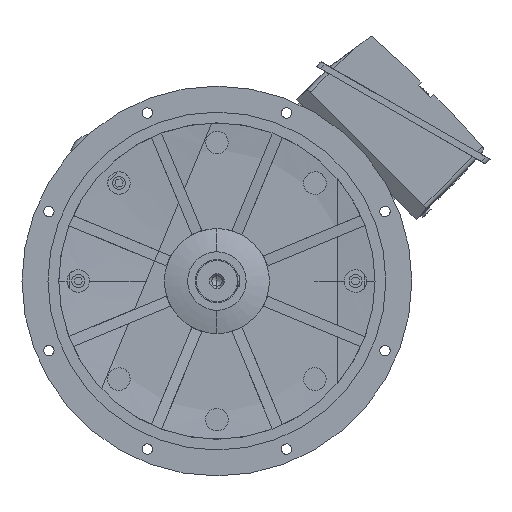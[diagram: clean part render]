
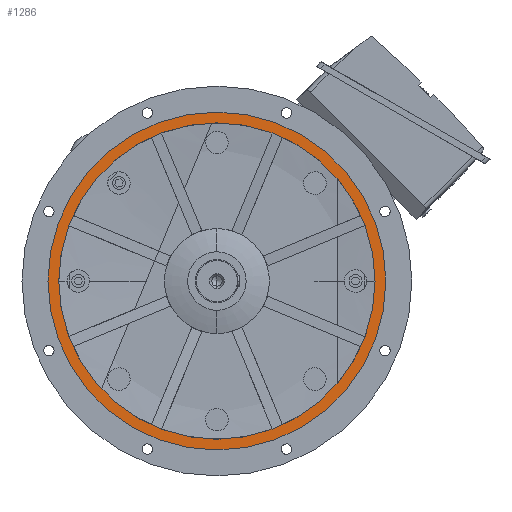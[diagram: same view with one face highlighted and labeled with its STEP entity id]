
A CAD part, left-side view. The second image highlights one B-rep face of the part: STEP entity #1286.
In plain terms, the highlighted planar face has unit normal (-1, 0, 0).
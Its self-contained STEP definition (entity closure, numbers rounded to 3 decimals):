
#1286 = ADVANCED_FACE ( 'NONE', ( #3077, #89223 ), #36271, .T. ) ;
#1379 = CARTESIAN_POINT ( 'NONE',  ( -116., 390., 0. ) ) ;
#1882 = EDGE_LOOP ( 'NONE', ( #5718, #31693 ) ) ;
#2925 = VERTEX_POINT ( 'NONE', #73040 ) ;
#3077 = FACE_OUTER_BOUND ( 'NONE', #1882, .T. ) ;
#5718 = ORIENTED_EDGE ( 'NONE', *, *, #71977, .F. ) ;
#6354 = AXIS2_PLACEMENT_3D ( 'NONE', #34096, #48894, #90142 ) ;
#13034 = DIRECTION ( 'NONE',  ( 0., 1., 0. ) ) ;
#14968 = AXIS2_PLACEMENT_3D ( 'NONE', #85529, #43084, #50151 ) ;
#20174 = CARTESIAN_POINT ( 'NONE',  ( -116., 0., 0. ) ) ;
#27456 = CIRCLE ( 'NONE', #84437, 390. ) ;
#29576 = CARTESIAN_POINT ( 'NONE',  ( -116., 0., 0. ) ) ;
#30746 = CIRCLE ( 'NONE', #54644, 390. ) ;
#31693 = ORIENTED_EDGE ( 'NONE', *, *, #77965, .F. ) ;
#32844 = DIRECTION ( 'NONE',  ( 1., 0., 0. ) ) ;
#34096 = CARTESIAN_POINT ( 'NONE',  ( -116., 0., 0. ) ) ;
#36271 = PLANE ( 'NONE',  #14968 ) ;
#36666 = ORIENTED_EDGE ( 'NONE', *, *, #66205, .T. ) ;
#37481 = DIRECTION ( 'NONE',  ( 1., 0., 0. ) ) ;
#37771 = DIRECTION ( 'NONE',  ( 0., 1., 0. ) ) ;
#43084 = DIRECTION ( 'NONE',  ( -1., 0., 0. ) ) ;
#48894 = DIRECTION ( 'NONE',  ( 1., 0., 0. ) ) ;
#50151 = DIRECTION ( 'NONE',  ( 0., 0., 1. ) ) ;
#52033 = DIRECTION ( 'NONE',  ( 0., 1., 0. ) ) ;
#54167 = CIRCLE ( 'NONE', #6354, 365. ) ;
#54644 = AXIS2_PLACEMENT_3D ( 'NONE', #29576, #87129, #52033 ) ;
#55048 = EDGE_LOOP ( 'NONE', ( #89196, #36666 ) ) ;
#57899 = CIRCLE ( 'NONE', #78210, 365. ) ;
#62996 = VERTEX_POINT ( 'NONE', #82554 ) ;
#63993 = CARTESIAN_POINT ( 'NONE',  ( -116., 365., 0. ) ) ;
#66205 = EDGE_CURVE ( 'NONE', #62996, #78478, #57899, .T. ) ;
#69961 = EDGE_CURVE ( 'NONE', #78478, #62996, #54167, .T. ) ;
#70635 = VERTEX_POINT ( 'NONE', #1379 ) ;
#71977 = EDGE_CURVE ( 'NONE', #70635, #2925, #27456, .T. ) ;
#73040 = CARTESIAN_POINT ( 'NONE',  ( -116., -390., 0. ) ) ;
#77965 = EDGE_CURVE ( 'NONE', #2925, #70635, #30746, .T. ) ;
#78210 = AXIS2_PLACEMENT_3D ( 'NONE', #79601, #37481, #37771 ) ;
#78478 = VERTEX_POINT ( 'NONE', #63993 ) ;
#79601 = CARTESIAN_POINT ( 'NONE',  ( -116., 0., 0. ) ) ;
#82554 = CARTESIAN_POINT ( 'NONE',  ( -116., -365., 0. ) ) ;
#84437 = AXIS2_PLACEMENT_3D ( 'NONE', #20174, #32844, #13034 ) ;
#85529 = CARTESIAN_POINT ( 'NONE',  ( -116., 377.5, 0. ) ) ;
#87129 = DIRECTION ( 'NONE',  ( 1., 0., 0. ) ) ;
#89196 = ORIENTED_EDGE ( 'NONE', *, *, #69961, .T. ) ;
#89223 = FACE_BOUND ( 'NONE', #55048, .T. ) ;
#90142 = DIRECTION ( 'NONE',  ( 0., 1., 0. ) ) ;
